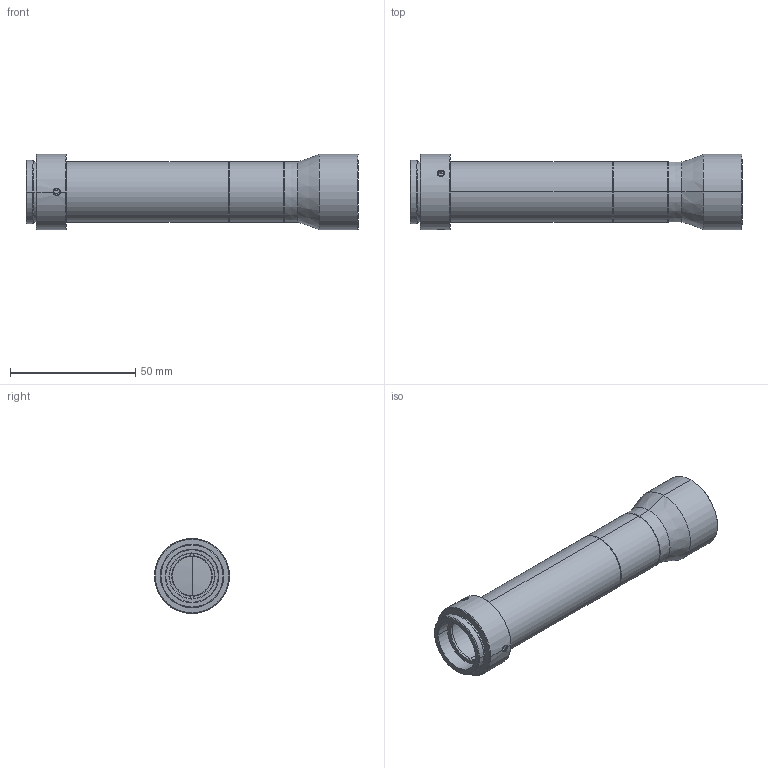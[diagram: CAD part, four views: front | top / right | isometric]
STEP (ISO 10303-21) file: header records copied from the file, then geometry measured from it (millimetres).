
FILE_DESCRIPTION((''),'2;1');
FILE_NAME('MV11101D-200_ASM','2025-08-06T16:40:45',('user'),(''),'CREO PARAMETRIC BY PTC INC, 2022073','CREO PARAMETRIC BY PTC INC, 2022073','');
FILE_SCHEMA(('CONFIG_CONTROL_DESIGN'));
Length unit declared in the file: millimetre
Products named in the file (22): MV11101A-504-V0; MV1111B-508-V0; MV1111A-503-V2_AF0; MV1111A-505-V2_AF0; MV1111A-304-V2_AF0; MV1111A-514-V2_AF0; MV1111A-305-V2_AF0; MV1111A-515-V2_AF0; MV1111A-203_AF0_ASM; MV1111A-513-V0_AF0; MV1111A-306-V2_AF0; MV1111A-516-V0; MV1111A-204_AF0_ASM; JD30303001; MV11201D-502-V01_AF0; MV1111A-501-V1_AF0; MV1111A-601-V2_AF0; MV1111A-512-V0_AF0; MV1111A-301-V2_AF0; MV1111A-511-V1; MV1111A-201_AF0_ASM; MV11101D-200_ASM
Assembly tree (23 placements, depth 4):
  MV11101D-200_ASM
    MV11101A-504-V0
    MV1111B-508-V0
    MV1111A-204_AF0_ASM
      MV1111A-503-V2_AF0
      MV1111A-203_AF0_ASM
        MV1111A-505-V2_AF0
        MV1111A-304-V2_AF0
        MV1111A-514-V2_AF0
        MV1111A-305-V2_AF0
        MV1111A-515-V2_AF0
      MV1111A-513-V0_AF0
      MV1111A-306-V2_AF0
      MV1111A-516-V0
    JD30303001  x3
    MV11201D-502-V01_AF0
    MV1111A-201_AF0_ASM
      MV1111A-501-V1_AF0
      MV1111A-601-V2_AF0
      MV1111A-512-V0_AF0
      MV1111A-301-V2_AF0
      MV1111A-511-V1
Bounding box: 132.69 x 30 x 30 mm (x, y, z)
Volume: 20627.3 mm3; surface area: 26992.9 mm2
Topology: 13 solids, 16 shells, 298 faces, 707 edges, 440 vertices
Faces by surface type: cylinder 116, cone 97, plane 72, bspline 9, sphere 4
Entity records: 14191 total; most frequent: CARTESIAN_POINT 7959, DIRECTION 1376, ORIENTED_EDGE 1122, AXIS2_PLACEMENT_3D 569, EDGE_CURVE 567, VERTEX_POINT 350, EDGE_LOOP 279, CIRCLE 262
